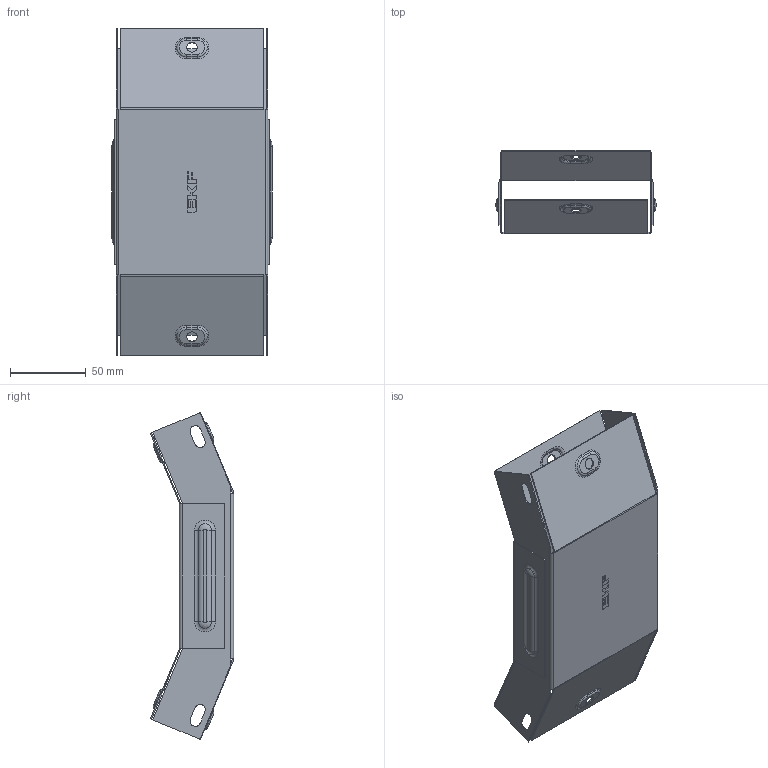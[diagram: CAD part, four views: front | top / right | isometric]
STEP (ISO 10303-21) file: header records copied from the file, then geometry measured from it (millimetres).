
FILE_DESCRIPTION (( 'STEP AP214' ), '1' );
FILE_NAME ('vi4535100_捘.STEP', '2019-06-10T08:29:38', ( '砐錪賧瘔蠈錪 Windows' ), ( '' ), 'SwSTEP 2.0', 'SolidWorks 2018', '' );
FILE_SCHEMA (( 'AUTOMOTIVE_DESIGN' ));
Length unit declared in the file: millimetre
Products named in the file (1): vi4535100_捘
Bounding box: 105.6 x 54.93 x 215.77 mm (x, y, z)
Volume: 48526.4 mm3; surface area: 123021.5 mm2
Topology: 2 solids, 2 shells, 416 faces, 1056 edges, 672 vertices
Faces by surface type: plane 222, cylinder 112, torus 64, bspline 18
Entity records: 13420 total; most frequent: CARTESIAN_POINT 3164, DIRECTION 2138, ORIENTED_EDGE 2112, EDGE_CURVE 1056, AXIS2_PLACEMENT_3D 719, LINE 700, VECTOR 700, VERTEX_POINT 672
